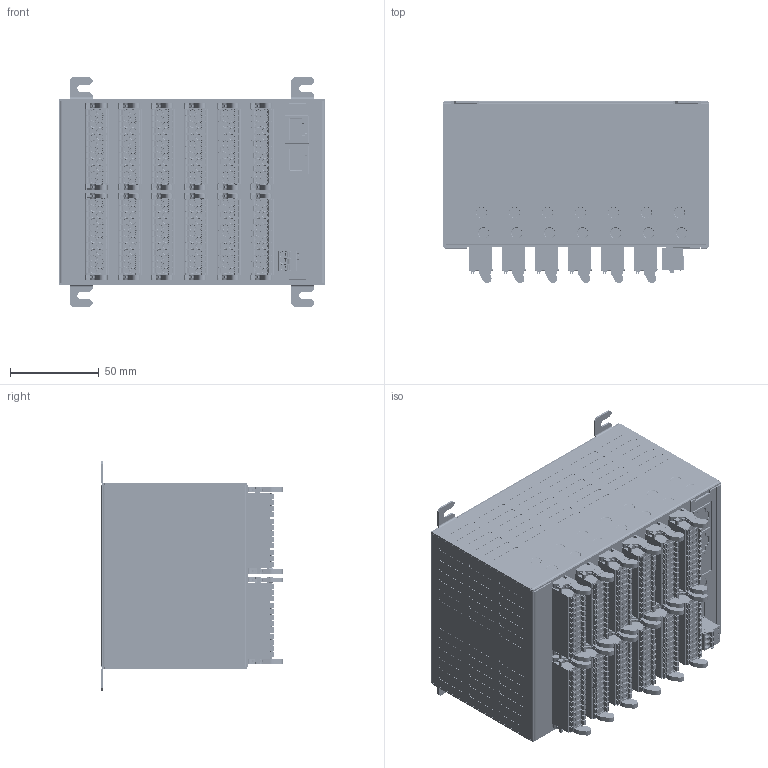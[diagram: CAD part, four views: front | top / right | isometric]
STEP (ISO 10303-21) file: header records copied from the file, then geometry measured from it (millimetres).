
FILE_DESCRIPTION (( 'STEP AP214' ), '1' );
FILE_NAME ('COP-Cube_7Slot.STEP', '2015-07-30T12:21:32', ( '' ), ( '' ), 'SwSTEP 2.0', 'SolidWorks 2014', '' );
FILE_SCHEMA (( 'AUTOMOTIVE_DESIGN' ));
Length unit declared in the file: millimetre
Products named in the file (1): COP-Cube_7Slot
Bounding box: 150.2 x 102.69 x 129.4 mm (x, y, z)
Surface area: 120316.8 mm2 (no closed solid volume)
Topology: 0 solids, 99 shells, 7942 faces, 26890 edges, 18653 vertices
Faces by surface type: plane 4542, cylinder 3057, bspline 311, cone 28, sphere 4
Full cylindrical faces by diameter (mm): 3 x288, 3.1 x3
Entity records: 419197 total; most frequent: CARTESIAN_POINT 103056, DIRECTION 48459, ORIENTED_EDGE 42625, EDGE_CURVE 25850, VERTEX_POINT 18228, VECTOR 17413, LINE 17413, AXIS2_PLACEMENT_3D 15523
